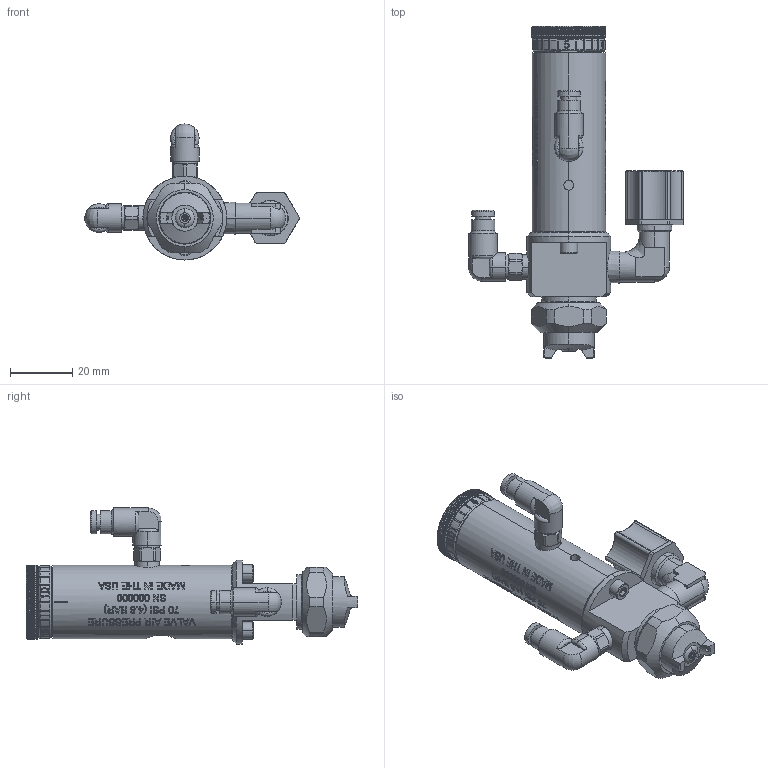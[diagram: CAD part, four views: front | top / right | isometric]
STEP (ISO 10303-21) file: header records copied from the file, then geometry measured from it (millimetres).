
FILE_DESCRIPTION(('FreeCAD Model'),'2;1');
FILE_NAME('C:/Users/martin.stroffek/Desktop/NORDSONEFD-7021614_781S-SS-28F SPRAY VALVE SS 028 NOZZLE FAN.STEP','2019-07-06T12:10:33',('Author'),(''), 'Open CASCADE STEP processor 7.2','FreeCAD','Unknown');
FILE_SCHEMA(('AUTOMOTIVE_DESIGN { 1 0 10303 214 1 1 1 1 }'));
Products named in the file (1): NORDSONEFD-7021614_781S-SS-28F_SPRAY_VALVE_SS_028_NOZZLE_FAN
Bounding box: 68.86 x 106.62 x 43.69 mm (x, y, z)
Volume: 48745.8 mm3; surface area: 16853.8 mm2
Topology: 1 solids, 1 shells, 1811 faces, 4872 edges, 3183 vertices
Faces by surface type: plane 861, bspline 395, cylinder 382, cone 114, torus 54, revolution 4, sphere 1
Entity records: 213935 total; most frequent: CARTESIAN_POINT 115497, DIRECTION 12344, ORIENTED_EDGE 9714, PCURVE 9714, DEFINITIONAL_REPRESENTATION 9714, LINE 7072, VECTOR 7072, B_SPLINE_CURVE_WITH_KNOTS 5530
